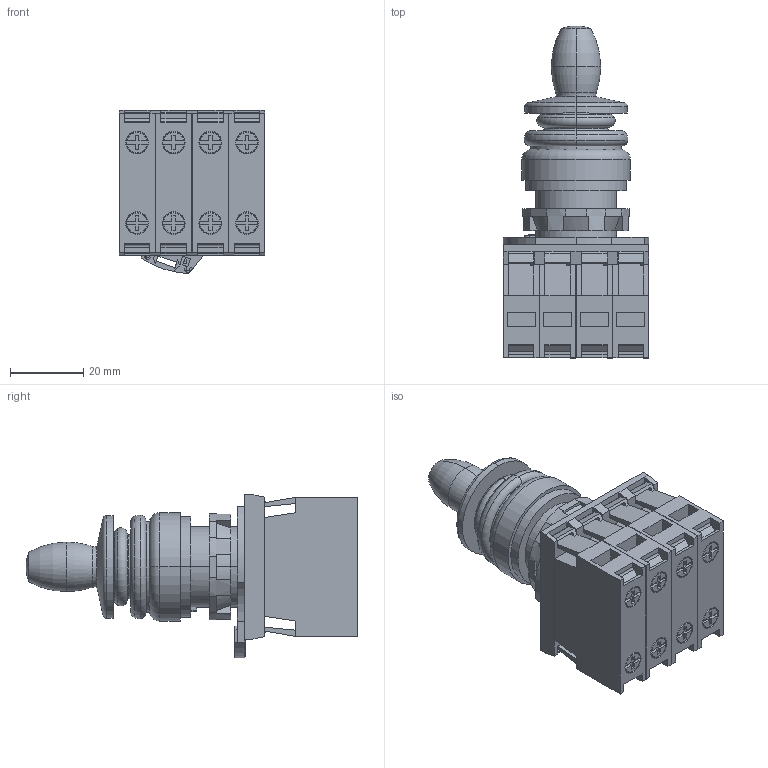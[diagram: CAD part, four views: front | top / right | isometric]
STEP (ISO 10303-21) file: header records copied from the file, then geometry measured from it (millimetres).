
FILE_DESCRIPTION (( 'STEP AP214' ), '1' );
FILE_NAME ('ZF_STEP_E2_AC-DXBC2623.step', '2016-08-01T07:43:13', ( 'utente' ), ( 'Microsoft' ), 'SwSTEP 2.0', 'SolidWorks 2014', '' );
FILE_SCHEMA (( 'AUTOMOTIVE_DESIGN' ));
Length unit declared in the file: millimetre
Products named in the file (6): ZF_STEP_E2_CP10GxV1_A10; ZF_STEP_E2_1BAC21; ZF_STEP_E2_xMA2xxAxx; ZF_STEP_VE_GFx2xA_21008; ZF_STEP_E2_xMA2xxxxx_A; ZF_STEP_E2_AC-DXBC2623
Assembly tree (8 placements, depth 3):
  ZF_STEP_E2_AC-DXBC2623
    ZF_STEP_E2_xMA2xxAxx
      ZF_STEP_E2_xMA2xxxxx_A
      ZF_STEP_VE_GFx2xA_21008
    ZF_STEP_E2_1BAC21
    ZF_STEP_E2_CP10GxV1_A10  x4
Bounding box: 39.9 x 90.7 x 44.58 mm (x, y, z)
Volume: 63693.1 mm3; surface area: 30658.7 mm2
Topology: 7 solids, 7 shells, 784 faces, 2128 edges, 1397 vertices
Faces by surface type: plane 573, cylinder 142, torus 52, cone 13, sphere 4
Entity records: 14704 total; most frequent: CARTESIAN_POINT 2580, ORIENTED_EDGE 2452, DIRECTION 2445, EDGE_CURVE 1226, VECTOR 885, LINE 885, VERTEX_POINT 803, AXIS2_PLACEMENT_3D 780
